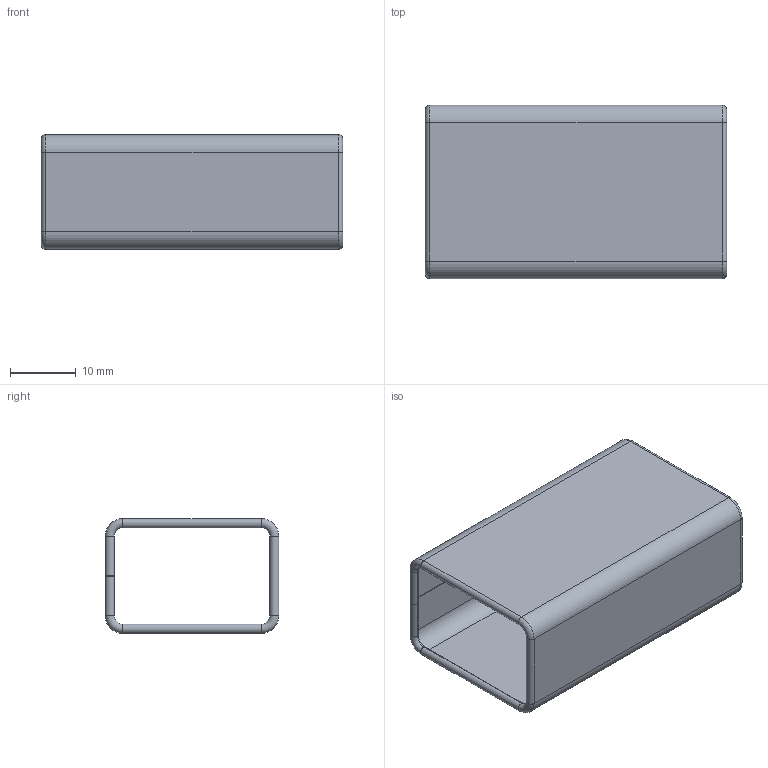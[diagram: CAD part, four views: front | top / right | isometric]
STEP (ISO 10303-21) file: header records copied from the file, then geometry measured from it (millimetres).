
FILE_DESCRIPTION(/* description */ ('STEP AP242 Edition 2','CAx-IF Rec.Pracs.---Representation and Presentation of Product Manufacturing Information (PMI)---4.0---2014-10-13','CAx-IF Rec.Pracs.---3D Tessellated Geometry---0.4---2014-09-14','2;1','CAx-IF Rec.Pracs.---User Defined Attributes---1.5---2016-08-15'),/* implementation_level */ '2;1');
FILE_NAME(/* name */ 'Assembly 1 - 9V_Battery (1)',/* time_stamp */ '2026-04-02T09:55:06Z',/* author */ (''),/* organization */ (''),/* preprocessor_version */ 'ST-DEVELOPER v20',/* originating_system */ 'ONSHAPE BY PTC INC, 1.212',/* authorisation */ ' ');
FILE_SCHEMA (('AP242_MANAGED_MODEL_BASED_3D_ENGINEERING_MIM_LF { 1 0 10303 442 3 1 4 }'));
Products named in the file (1): 9V_Battery
Bounding box: 46 x 26.5 x 17.5 mm (x, y, z)
Volume: 799.3 mm3; surface area: 8045.7 mm2
Topology: 1 solids, 1 shells, 963 faces, 2578 edges, 1695 vertices
Faces by surface type: plane 552, bspline 350, cylinder 45, torus 16
Entity records: 44081 total; most frequent: CARTESIAN_POINT 21776, ORIENTED_EDGE 5156, DIRECTION 3195, EDGE_CURVE 2578, LINE 1787, VECTOR 1787, VERTEX_POINT 1695, EDGE_LOOP 1041
